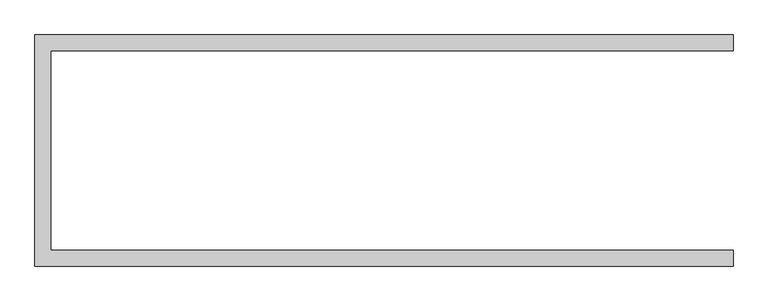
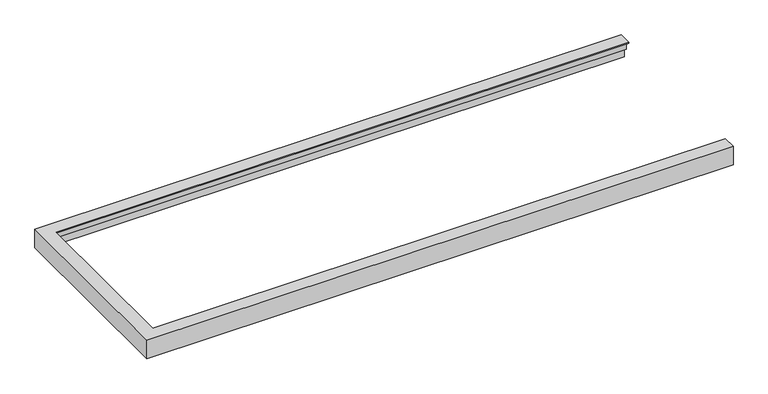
"""IFC4 building model written with IfcOpenShell, lengths in millimetres: member geometry, 32_IM_005_TDG_deurkozijn : 32_IM_005_TDG_deurkozijn."""

from ifc_helpers import new_model, si_unit, origin, place, context, project, spatial, faceted_brep, source, transform, mapped, element, save


def member_c15710f9(model_context):
    return source(origin(), model_context, "Body", "Brep", [
        faceted_brep([(1489.0, 465.0, -50.0), (1489.0, 493.0, -50.0), (1489.0, 493.0, 50.0), (1489.0, 426.0, 50.0), (1489.0, 426.0, 45.0000184), (1489.0, 443.5000275, 45.0000184), (1489.0, 448.0, 0.0), (1489.0, 465.0, 0.0), (-1489.0, -493.0, 50.0), (-1489.0, 493.0, 50.0), (-1489.0, 493.0, -50.0), (-1489.0, -493.0, -50.0), (1489.0, -493.0, 50.0), (1489.0, -426.0, 50.0), (-1422.0, -426.0, 50.0), (-1422.0, 426.0, 50.0), (-1461.0, 465.0, -50.0), (-1461.0, -465.0, -50.0), (1489.0, -465.0, -50.0), (1489.0, -493.0, -50.0), (1489.0, -465.0, 0.0), (1489.0, -448.0, 0.0), (1489.0, -443.5000275, 45.0000184), (1489.0, -426.0, 45.0000184), (-1461.0, -465.0, 0.0), (-1461.0, 465.0, 0.0), (-1444.0, 448.0, 0.0), (-1444.0, -448.0, 0.0), (-1422.0, 426.0, 45.0000184), (-1422.0, -426.0, 45.0000184), (-1439.5000275, -443.5000275, 45.0000184), (-1439.5000275, 443.5000275, 45.0000184)], [[[0, 1, 2, 3, 4, 5, 6, 7]], [[8, 9, 10, 11]], [[3, 2, 9, 8, 12, 13, 14, 15]], [[2, 1, 10, 9]], [[1, 0, 16, 17, 18, 19, 11, 10]], [[12, 8, 11, 19]], [[18, 20, 21, 22, 23, 13, 12, 19]], [[24, 20, 18, 17]], [[16, 25, 24, 17]], [[7, 6, 26, 27, 21, 20, 24, 25]], [[0, 7, 25, 16]], [[4, 3, 15, 28]], [[5, 4, 28, 29, 23, 22, 30, 31]], [[6, 5, 31, 26]], [[28, 15, 14, 29]], [[26, 31, 30, 27]], [[13, 23, 29, 14]], [[30, 22, 21, 27]]]),
    ])


if __name__ == "__main__":
    model = new_model("IFC4")
    model_context = context("Model", 3, world=origin())
    ifc_project = project(units=[si_unit("LENGTHUNIT", "METRE", prefix="MILLI")], contexts=[model_context])
    site = spatial("IfcSite", under=ifc_project)
    building = spatial("IfcBuilding", under=site)
    placement = place(None, origin())
    member_shape = member_c15710f9(model_context)
    element("IfcMember", 1, ObjectType="32_IM_005_TDG_deurkozijn : 32_IM_005_TDG_deurkozijn", at=placement, inside=building, context=model_context, shape_type="MappedRepresentation", body=[
        mapped(member_shape, transform((0.0, 0.0, 0.0), x_axis=(1.0, 0.0, 0.0), y_axis=(0.0, 1.0, 0.0), z_axis=(0.0, 0.0, 1.0))),
    ])
    save(model, "model.ifc")
